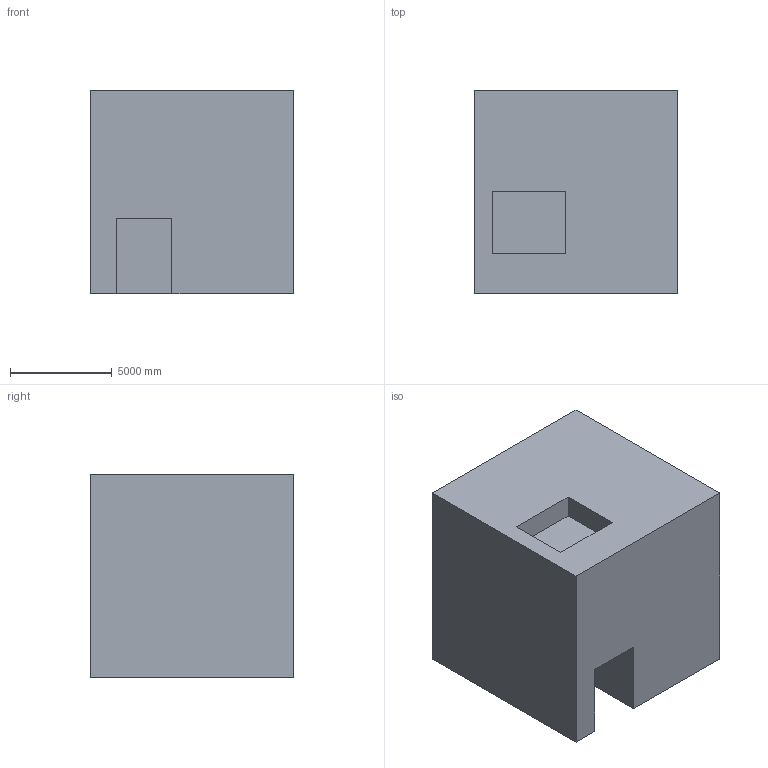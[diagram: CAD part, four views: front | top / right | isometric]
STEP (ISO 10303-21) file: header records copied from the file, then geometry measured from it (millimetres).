
FILE_DESCRIPTION (( 'STEP AP203' ), '1' );
FILE_NAME ('37.STEP', '2022-08-31T11:14:36', ( 'user' ), ( '' ), 'SwSTEP 2.0', 'SolidWorks 2021', '' );
FILE_SCHEMA (( 'CONFIG_CONTROL_DESIGN' ));
Length unit declared in the file: centimetre
Products named in the file (1): 37
Bounding box: 10000 x 10000 x 10000 mm (x, y, z)
Volume: 952641462854.5 mm3; surface area: 640819952.4 mm2
Topology: 1 solids, 1 shells, 15 faces, 36 edges, 24 vertices
Faces by surface type: plane 15
Entity records: 507 total; most frequent: CARTESIAN_POINT 76, ORIENTED_EDGE 72, DIRECTION 68, EDGE_CURVE 36, LINE 36, VECTOR 36, VERTEX_POINT 24, EDGE_LOOP 16
